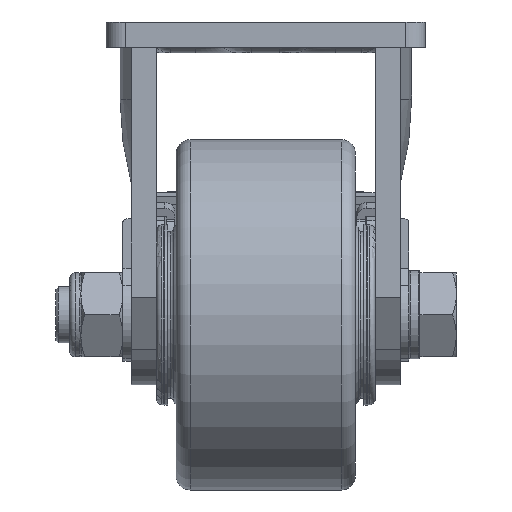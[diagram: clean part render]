
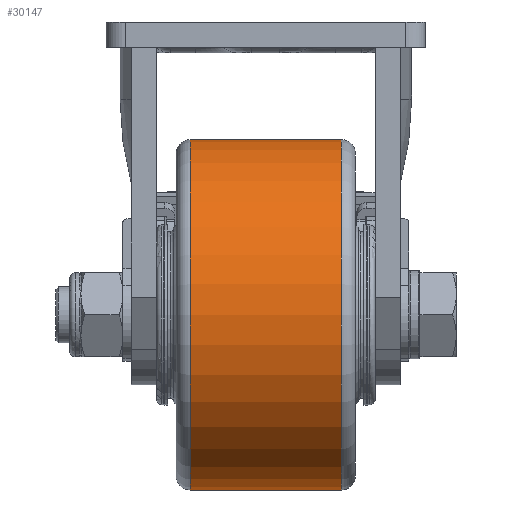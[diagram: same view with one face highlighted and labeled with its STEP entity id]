
A CAD part, left-side view. The second image highlights one B-rep face of the part: STEP entity #30147.
In plain terms, the highlighted cylindrical face has radius 62.5 mm (diameter 125 mm), a full revolution.
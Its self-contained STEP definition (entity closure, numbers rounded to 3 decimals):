
#6217=CYLINDRICAL_SURFACE('',#32010,62.5);
#7479=FACE_BOUND('',#9579,.T.);
#7742=FACE_OUTER_BOUND('',#9578,.T.);
#9578=EDGE_LOOP('',(#20734));
#9579=EDGE_LOOP('',(#20735));
#11664=CIRCLE('',#32009,62.5);
#11665=CIRCLE('',#32011,62.5);
#12992=VERTEX_POINT('',#42611);
#12993=VERTEX_POINT('',#42614);
#16040=EDGE_CURVE('',#12992,#12992,#11664,.T.);
#16041=EDGE_CURVE('',#12993,#12993,#11665,.T.);
#20734=ORIENTED_EDGE('',*,*,#16040,.T.);
#20735=ORIENTED_EDGE('',*,*,#16041,.F.);
#30147=ADVANCED_FACE('',(#7742,#7479),#6217,.T.);
#32009=AXIS2_PLACEMENT_3D('',#42612,#34793,#34794);
#32010=AXIS2_PLACEMENT_3D('',#42613,#34795,#34796);
#32011=AXIS2_PLACEMENT_3D('',#42615,#34797,#34798);
#34793=DIRECTION('center_axis',(0.,1.,0.));
#34794=DIRECTION('ref_axis',(1.,0.,0.));
#34795=DIRECTION('center_axis',(0.,1.,0.));
#34796=DIRECTION('ref_axis',(0.,0.,-1.));
#34797=DIRECTION('center_axis',(0.,1.,0.));
#34798=DIRECTION('ref_axis',(1.,0.,0.));
#42611=CARTESIAN_POINT('',(-1.,-27.,-162.5));
#42612=CARTESIAN_POINT('Origin',(-1.,-27.,-100.));
#42613=CARTESIAN_POINT('Origin',(-1.,0.,
-100.));
#42614=CARTESIAN_POINT('',(-1.,27.,-162.5));
#42615=CARTESIAN_POINT('Origin',(-1.,27.,-100.));
